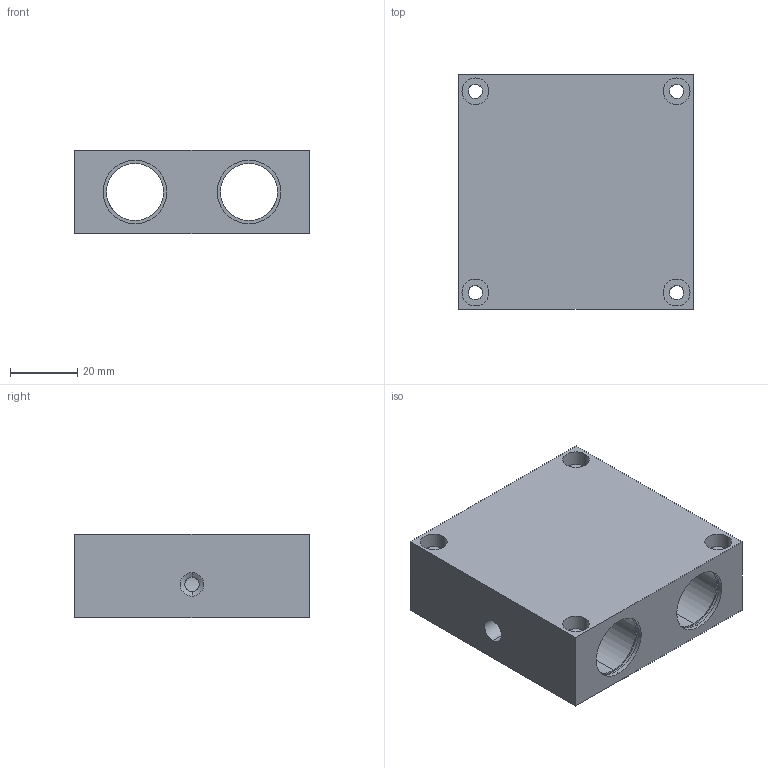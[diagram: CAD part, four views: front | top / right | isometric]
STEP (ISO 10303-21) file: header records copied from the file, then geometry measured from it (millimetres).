
FILE_DESCRIPTION (( 'STEP AP214' ), '1' );
FILE_NAME ('KQSG-10.step', '2020-03-04T13:33:00', ( '' ), ( '' ), 'SwSTEP 2.0', 'SolidWorks 2019', '' );
FILE_SCHEMA (( 'AUTOMOTIVE_DESIGN' ));
Length unit declared in the file: millimetre
Products named in the file (1): KQSG-10
Bounding box: 70 x 70 x 25 mm (x, y, z)
Volume: 80688.7 mm3; surface area: 26184.5 mm2
Topology: 1 solids, 1 shells, 96 faces, 210 edges, 135 vertices
Faces by surface type: cylinder 62, plane 26, cone 8
Entity records: 2968 total; most frequent: CARTESIAN_POINT 552, DIRECTION 520, ORIENTED_EDGE 416, AXIS2_PLACEMENT_3D 219, EDGE_CURVE 208, VERTEX_POINT 135, EDGE_LOOP 133, CIRCLE 122
